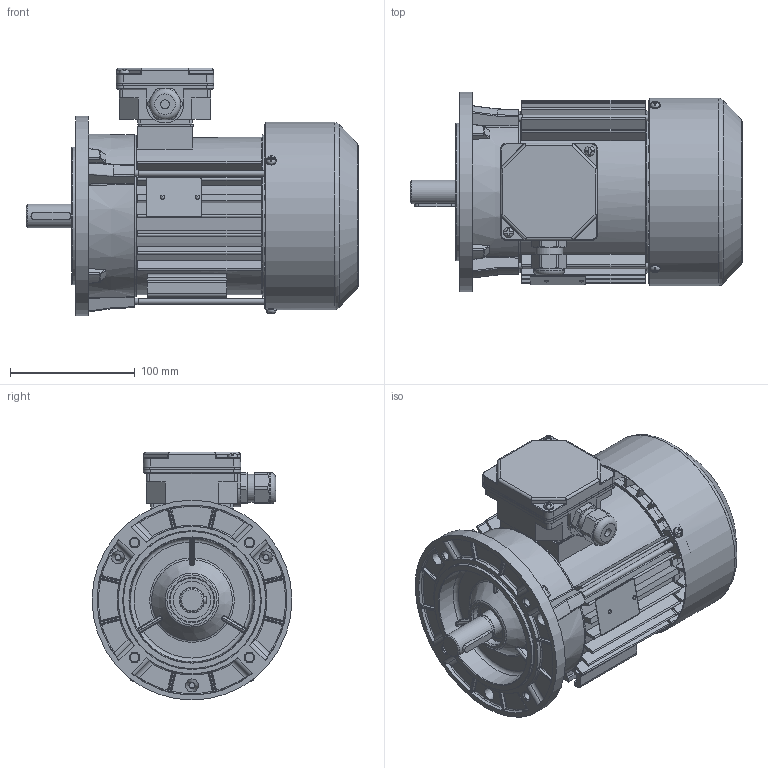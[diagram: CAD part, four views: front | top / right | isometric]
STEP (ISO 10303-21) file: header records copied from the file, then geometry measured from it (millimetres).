
FILE_DESCRIPTION(/* description */ ('Unknown'),/* implementation_level */ '2;1');
FILE_NAME(/* name */ 'SKh80-2A1',/* time_stamp */ '2019-02-13T11:31:27+01:00',/* author */ ('Klaudiusz Szlosek'),/* organization */ ('BESEL S.A.'),/* preprocessor_version */ 'ST-DEVELOPER v16.7',/* originating_system */ 'DEX',/* authorisation */ $);
FILE_SCHEMA (('AUTOMOTIVE_DESIGN {1 0 10303 214 3 1 1}'));
Products named in the file (1): Czêœæ2
Bounding box: 265.77 x 160 x 198.5 mm (x, y, z)
Volume: 864579.8 mm3; surface area: 479942.3 mm2
Topology: 2 solids, 2 shells, 2709 faces, 7476 edges, 4770 vertices
Faces by surface type: plane 1192, cylinder 801, bspline 394, torus 162, cone 134, sphere 26
Full cylindrical faces by diameter (mm): 2 x2, 2.4 x2, 3 x1, 3.7 x8, 4 x3, 4.2 x3, 4.5 x1, 4.6 x3, 4.8 x2, 5 x5, 5.5 x3, 6.8 x4, 7 x1, 8 x9, 18.596 x1, 18.996 x1, 19.296 x1, 19.496 x2, 19.896 x1, 20.296 x2, 20.396 x2, 20.4 x2, 22.3 x1, 25 x1, 25.495 x1, 25.645 x1, 25.995 x3, 26.045 x1, 28.796 x4, 30 x1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
Entity records: 110316 total; most frequent: CARTESIAN_POINT 26515, ORIENTED_EDGE 14174, DIRECTION 12592, EDGE_CURVE 7087, AXIS2_PLACEMENT_3D 4682, VERTEX_POINT 4649, LINE 3228, VECTOR 3228
